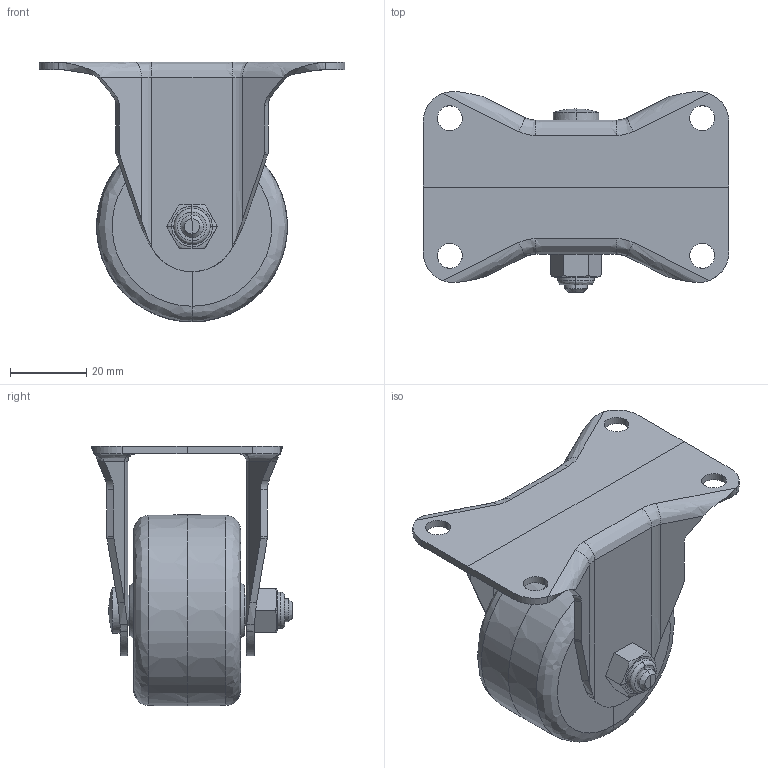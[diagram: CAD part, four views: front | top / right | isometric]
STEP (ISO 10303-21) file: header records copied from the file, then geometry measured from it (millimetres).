
FILE_DESCRIPTION (( 'STEP AP214' ), '1' );
FILE_NAME ('FP50FNWK.STEP', '2023-10-25T12:12:41', ( 'sakai' ), ( 'Hewlett-Packard' ), 'SwSTEP 2.0', 'SolidWorks 2010', '' );
FILE_SCHEMA (( 'AUTOMOTIVE_DESIGN' ));
Length unit declared in the file: millimetre
Products named in the file (5): FP50FNWK-10; FP50FNWK-11; FP50FNWK-12; FP50FNWK-13; FP50FNWK
Assembly tree (4 placements, depth 2):
  FP50FNWK
    FP50FNWK-13
    FP50FNWK-12
    FP50FNWK-11
    FP50FNWK-10
Bounding box: 80 x 52.47 x 68 mm (x, y, z)
Volume: 68495 mm3; surface area: 24570.1 mm2
Topology: 4 solids, 4 shells, 172 faces, 405 edges, 235 vertices
Faces by surface type: bspline 118, plane 54
Entity records: 15801 total; most frequent: CARTESIAN_POINT 12556, ORIENTED_EDGE 806, EDGE_CURVE 403, B_SPLINE_CURVE_WITH_KNOTS 285, DIRECTION 240, VERTEX_POINT 235, EDGE_LOOP 184, FACE_OUTER_BOUND 172
